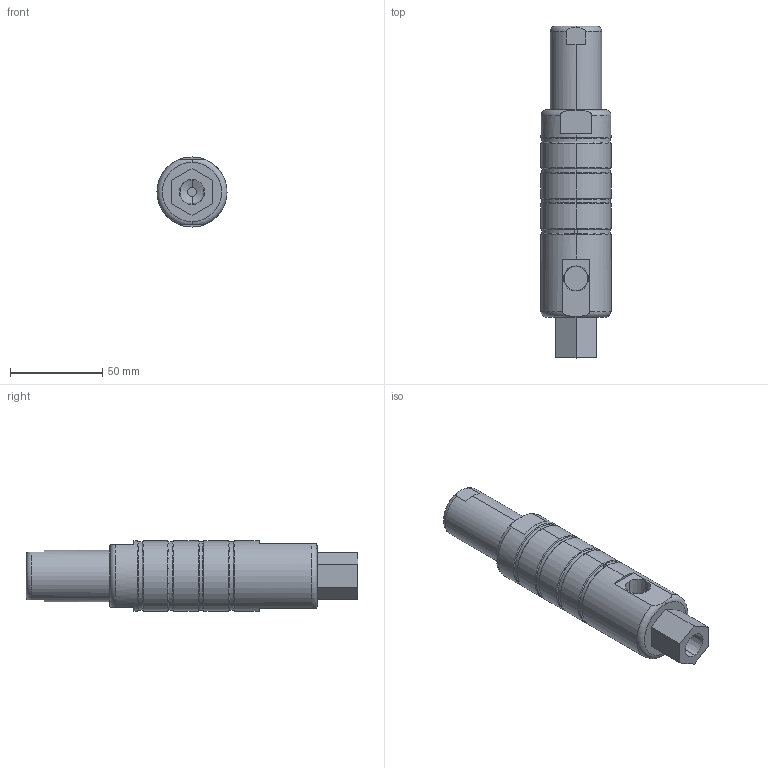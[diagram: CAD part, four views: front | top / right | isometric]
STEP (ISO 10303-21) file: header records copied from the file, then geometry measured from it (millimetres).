
FILE_DESCRIPTION (( 'STEP AP203' ), '1' );
FILE_NAME ('RV10FAS04-2.STEP', '2026-02-25T02:42:06', ( '' ), ( '' ), 'SwSTEP 2.0', 'SolidWorks 2023', '' );
FILE_SCHEMA (( 'CONFIG_CONTROL_DESIGN' ));
Length unit declared in the file: millimetre
Products named in the file (1): RV10FAS04-2
Bounding box: 38 x 180.1 x 38 mm (x, y, z)
Volume: 156705.3 mm3; surface area: 22825.8 mm2
Topology: 1 solids, 1 shells, 80 faces, 181 edges, 108 vertices
Faces by surface type: plane 26, cylinder 24, cone 24, torus 6
Entity records: 2514 total; most frequent: CARTESIAN_POINT 616, DIRECTION 409, ORIENTED_EDGE 362, EDGE_CURVE 181, AXIS2_PLACEMENT_3D 163, VERTEX_POINT 108, EDGE_LOOP 85, VECTOR 83
